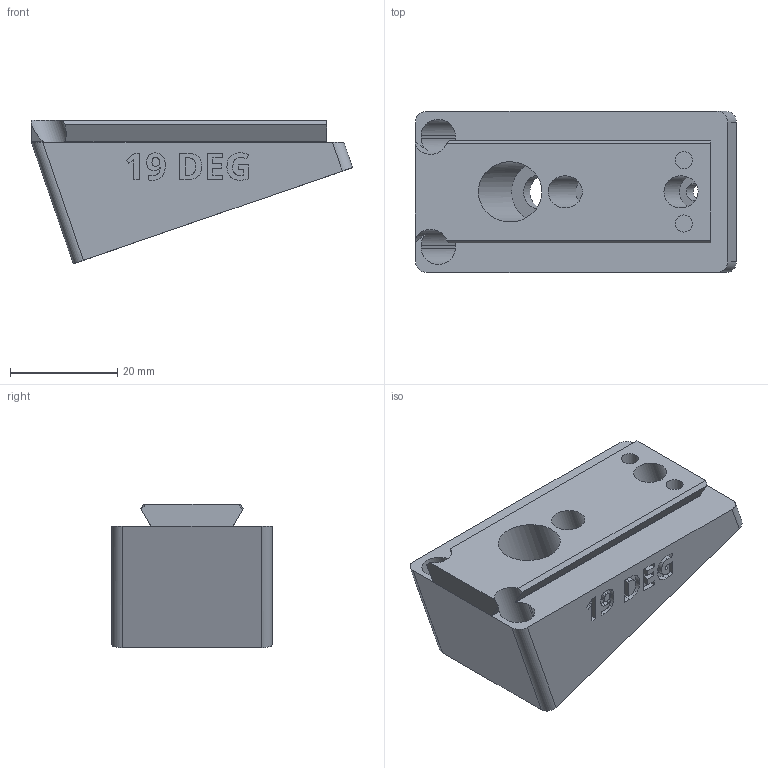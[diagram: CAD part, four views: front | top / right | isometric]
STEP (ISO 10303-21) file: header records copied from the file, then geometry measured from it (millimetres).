
FILE_DESCRIPTION(/* description */ ('STEP AP242 Edition 2','CAx-IF Rec.Pracs.---Representation and Presentation of Product Manufacturing Information (PMI)---4.0---2014-10-13','CAx-IF Rec.Pracs.---3D Tessellated Geometry---0.4---2014-09-14','2;1','CAx-IF Rec.Pracs.---User Defined Attributes---1.5---2016-08-15'),/* implementation_level */ '2;1');
FILE_NAME(/* name */ 'Camera Wedges - CAMERA MOUNTING WEDGE, POS, 19 DEG',/* time_stamp */ '2026-07-08T20:38:18Z',/* author */ (''),/* organization */ (''),/* preprocessor_version */ 'ST-DEVELOPER v20',/* originating_system */ 'ONSHAPE BY PTC INC, 1.217',/* authorisation */ ' ');
FILE_SCHEMA (('AP242_MANAGED_MODEL_BASED_3D_ENGINEERING_MIM_LF { 1 0 10303 442 3 1 4 }'));
Length unit declared in the file: metre
Products named in the file (1): CAMERA MOUNTING WEDGE, POS, 19 DEG
Bounding box: 59.8 x 30 x 26.73 mm (x, y, z)
Volume: 22903.5 mm3; surface area: 8895.7 mm2
Topology: 1 solids, 1 shells, 247 faces, 676 edges, 451 vertices
Faces by surface type: plane 133, bspline 72, cylinder 42
Full cylindrical faces by diameter (mm): 3.2 x4, 6 x2, 6.4 x1, 11.2 x1
Entity records: 8017 total; most frequent: CARTESIAN_POINT 2153, ORIENTED_EDGE 1330, DIRECTION 969, EDGE_CURVE 665, VERTEX_POINT 448, LINE 425, VECTOR 425, EDGE_LOOP 285
